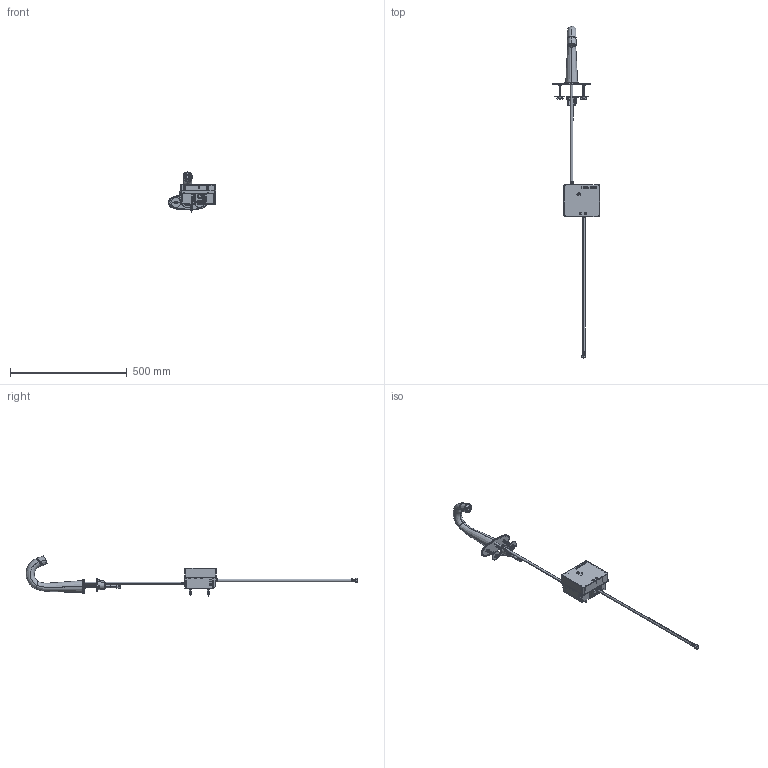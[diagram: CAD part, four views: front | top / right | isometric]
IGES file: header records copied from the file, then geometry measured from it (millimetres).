
Start section:  PTC IGES file: eq-c12a-11abcp_sw0001.igs
Global section: file name: eq-c12a-11abcp_sw0001.igs; native system: Creo Parametric by Parametric Technology Corporation; preprocessor: 2013050; author: jrodriguez; organization: Unknown; date: 20140919.152538; units: inch
Bounding box: 201.91 x 1420.2 x 171.27 mm (x, y, z)
Surface area: 426502 mm2 (no closed solid volume)
Topology: 0 solids, 0 shells, 1799 faces, 17573 edges, 24586 vertices
Faces by surface type: bspline 994, revolution 779, extrusion 26
